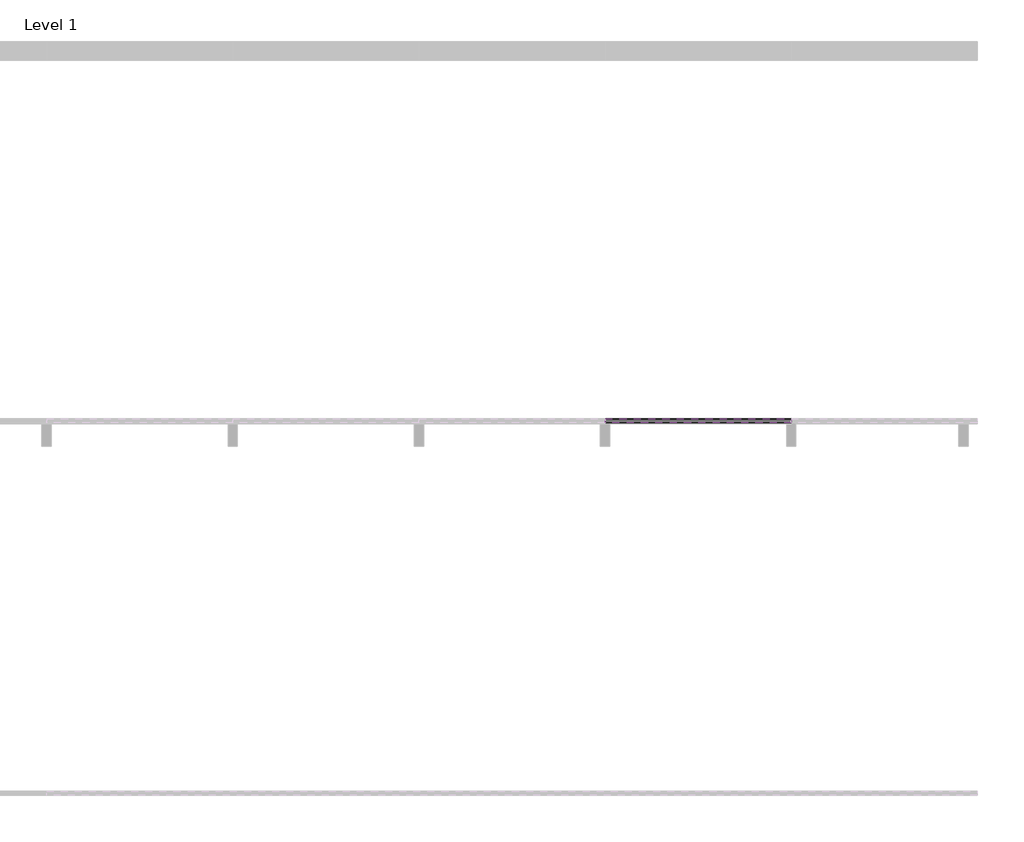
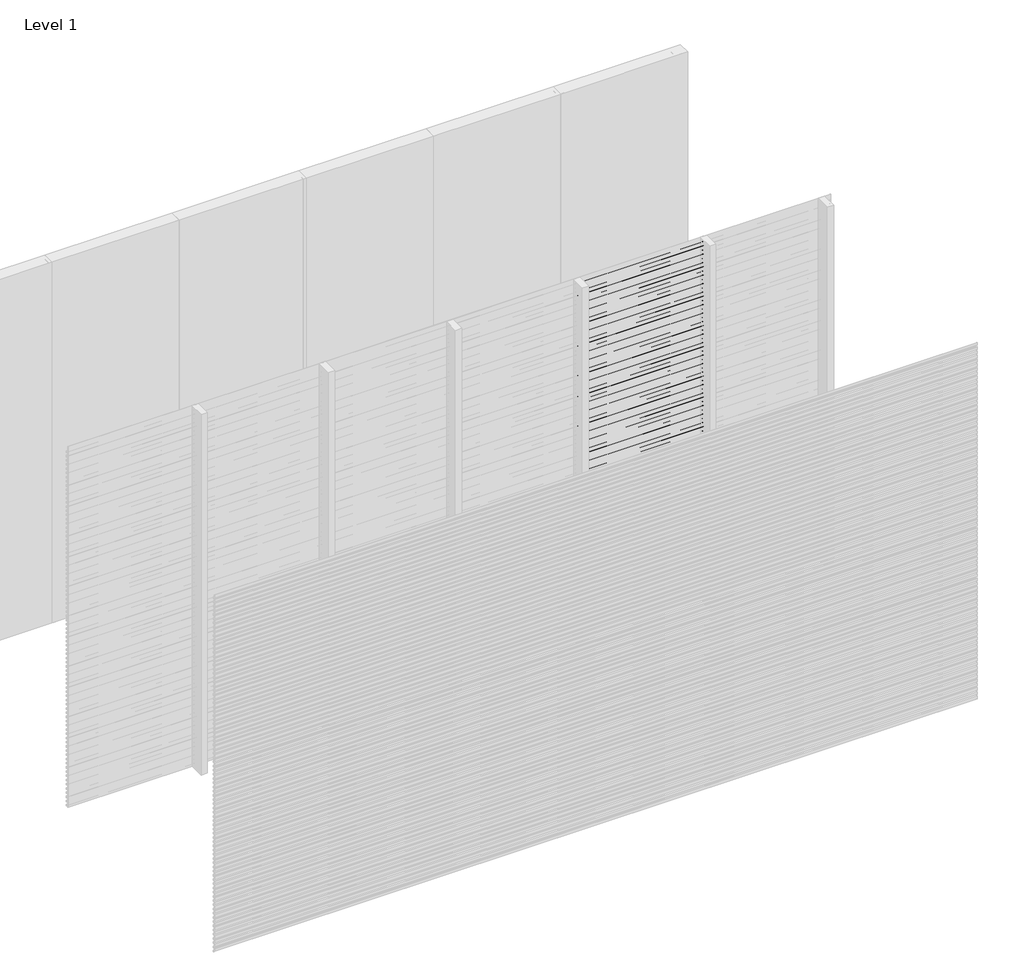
# One storey, part 6 of 25: 97 proxies.
"""IFC4 building model written with IfcOpenShell, lengths in millimetres."""

from ifc_helpers import new_model, si_unit, frame, origin, place, context, project, spatial, polyline, outline, extrude, element, save

model = new_model("IFC4")

# Units and contexts
model_context = context("Model", 3, world=origin())
ifc_project = project(units=[si_unit("LENGTHUNIT", "METRE", prefix="MILLI")], contexts=[model_context])

# Site, building, storey
site = spatial("IfcSite", under=ifc_project)
building = spatial("IfcBuilding", under=site)
storey = spatial("IfcBuildingStorey", under=building, Name="Level 1", Elevation=0.0)

# Proxies
placement = place(None, origin())
element("IfcBuildingElementProxy", 1, Name="Wall Sweeps", at=placement, inside=storey, context=model_context, shape_type="SweptSolid", body=[
    extrude(outline(polyline([(-17995.0, 2975.0), (-17995.0, 2963.942893), (-17976.0, 2948.0), (-17976.0, 2935.0), (-17997.0, 2952.6210923), (-17997.0, 2975.0), (-17995.0, 2975.0)])), frame((3999.9999999, 0.0, 0.0), z_axis=(1.0, 0.0, 0.0), x_axis=(0.0, 1.0, 0.0)), (0.0, 0.0, 1.0), 999.9999999),
])
element("IfcBuildingElementProxy", 2, Name="Wall Sweeps", at=placement, inside=storey, context=model_context, shape_type="SweptSolid", body=[
    extrude(outline(polyline([(-17995.0, 2940.0), (-17995.0, 2928.942893), (-17976.0, 2913.0), (-17976.0, 2900.0), (-17997.0, 2917.6210923), (-17997.0, 2940.0), (-17995.0, 2940.0)])), frame((3999.9999999, 0.0, 0.0), z_axis=(1.0, 0.0, 0.0), x_axis=(0.0, 1.0, 0.0)), (0.0, 0.0, 1.0), 999.9999999),
])
element("IfcBuildingElementProxy", 3, Name="Wall Sweeps", at=placement, inside=storey, context=model_context, shape_type="SweptSolid", body=[
    extrude(outline(polyline([(-17995.0, 2905.0), (-17995.0, 2893.942893), (-17976.0, 2878.0), (-17976.0, 2865.0), (-17997.0, 2882.6210923), (-17997.0, 2905.0), (-17995.0, 2905.0)])), frame((3999.9999999, 0.0, 0.0), z_axis=(1.0, 0.0, 0.0), x_axis=(0.0, 1.0, 0.0)), (0.0, 0.0, 1.0), 999.9999999),
])
element("IfcBuildingElementProxy", 4, Name="Wall Sweeps", at=placement, inside=storey, context=model_context, shape_type="SweptSolid", body=[
    extrude(outline(polyline([(-17995.0, 2870.0), (-17995.0, 2858.942893), (-17976.0, 2843.0), (-17976.0, 2830.0), (-17997.0, 2847.6210923), (-17997.0, 2870.0), (-17995.0, 2870.0)])), frame((3999.9999999, 0.0, 0.0), z_axis=(1.0, 0.0, 0.0), x_axis=(0.0, 1.0, 0.0)), (0.0, 0.0, 1.0), 999.9999999),
])
element("IfcBuildingElementProxy", 5, Name="Wall Sweeps", at=placement, inside=storey, context=model_context, shape_type="SweptSolid", body=[
    extrude(outline(polyline([(-17995.0, 2835.0), (-17995.0, 2823.942893), (-17976.0, 2808.0), (-17976.0, 2795.0), (-17997.0, 2812.6210923), (-17997.0, 2835.0), (-17995.0, 2835.0)])), frame((3999.9999999, 0.0, 0.0), z_axis=(1.0, 0.0, 0.0), x_axis=(0.0, 1.0, 0.0)), (0.0, 0.0, 1.0), 999.9999999),
])
element("IfcBuildingElementProxy", 6, Name="Wall Sweeps", at=placement, inside=storey, context=model_context, shape_type="SweptSolid", body=[
    extrude(outline(polyline([(-17995.0, 2800.0), (-17995.0, 2788.942893), (-17976.0, 2773.0), (-17976.0, 2760.0), (-17997.0, 2777.6210923), (-17997.0, 2800.0), (-17995.0, 2800.0)])), frame((3999.9999999, 0.0, 0.0), z_axis=(1.0, 0.0, 0.0), x_axis=(0.0, 1.0, 0.0)), (0.0, 0.0, 1.0), 999.9999999),
])
element("IfcBuildingElementProxy", 7, Name="Wall Sweeps", at=placement, inside=storey, context=model_context, shape_type="SweptSolid", body=[
    extrude(outline(polyline([(-17995.0, 2765.0), (-17995.0, 2753.942893), (-17976.0, 2738.0), (-17976.0, 2725.0), (-17997.0, 2742.6210923), (-17997.0, 2765.0), (-17995.0, 2765.0)])), frame((3999.9999999, 0.0, 0.0), z_axis=(1.0, 0.0, 0.0), x_axis=(0.0, 1.0, 0.0)), (0.0, 0.0, 1.0), 999.9999999),
])
element("IfcBuildingElementProxy", 8, Name="Wall Sweeps", at=placement, inside=storey, context=model_context, shape_type="SweptSolid", body=[
    extrude(outline(polyline([(-17995.0, 2730.0), (-17995.0, 2718.942893), (-17976.0, 2703.0), (-17976.0, 2690.0), (-17997.0, 2707.6210923), (-17997.0, 2730.0), (-17995.0, 2730.0)])), frame((3999.9999999, 0.0, 0.0), z_axis=(1.0, 0.0, 0.0), x_axis=(0.0, 1.0, 0.0)), (0.0, 0.0, 1.0), 999.9999999),
])
element("IfcBuildingElementProxy", 9, Name="Wall Sweeps", at=placement, inside=storey, context=model_context, shape_type="SweptSolid", body=[
    extrude(outline(polyline([(-17995.0, 2695.0), (-17995.0, 2683.942893), (-17976.0, 2668.0), (-17976.0, 2655.0), (-17997.0, 2672.6210923), (-17997.0, 2695.0), (-17995.0, 2695.0)])), frame((3999.9999999, 0.0, 0.0), z_axis=(1.0, 0.0, 0.0), x_axis=(0.0, 1.0, 0.0)), (0.0, 0.0, 1.0), 999.9999999),
])
element("IfcBuildingElementProxy", 10, Name="Wall Sweeps", at=placement, inside=storey, context=model_context, shape_type="SweptSolid", body=[
    extrude(outline(polyline([(-17995.0, 2660.0), (-17995.0, 2648.942893), (-17976.0, 2633.0), (-17976.0, 2620.0), (-17997.0, 2637.6210923), (-17997.0, 2660.0), (-17995.0, 2660.0)])), frame((3999.9999999, 0.0, 0.0), z_axis=(1.0, 0.0, 0.0), x_axis=(0.0, 1.0, 0.0)), (0.0, 0.0, 1.0), 999.9999999),
])
element("IfcBuildingElementProxy", 11, Name="Wall Sweeps", at=placement, inside=storey, context=model_context, shape_type="SweptSolid", body=[
    extrude(outline(polyline([(-17995.0, 2625.0), (-17995.0, 2613.942893), (-17976.0, 2598.0), (-17976.0, 2585.0), (-17997.0, 2602.6210923), (-17997.0, 2625.0), (-17995.0, 2625.0)])), frame((3999.9999999, 0.0, 0.0), z_axis=(1.0, 0.0, 0.0), x_axis=(0.0, 1.0, 0.0)), (0.0, 0.0, 1.0), 999.9999999),
])
element("IfcBuildingElementProxy", 12, Name="Wall Sweeps", at=placement, inside=storey, context=model_context, shape_type="SweptSolid", body=[
    extrude(outline(polyline([(-17995.0, 2590.0), (-17995.0, 2578.942893), (-17976.0, 2563.0), (-17976.0, 2550.0), (-17997.0, 2567.6210923), (-17997.0, 2590.0), (-17995.0, 2590.0)])), frame((3999.9999999, 0.0, 0.0), z_axis=(1.0, 0.0, 0.0), x_axis=(0.0, 1.0, 0.0)), (0.0, 0.0, 1.0), 999.9999999),
])
element("IfcBuildingElementProxy", 13, Name="Wall Sweeps", at=placement, inside=storey, context=model_context, shape_type="SweptSolid", body=[
    extrude(outline(polyline([(-17995.0, 2555.0), (-17995.0, 2543.942893), (-17976.0, 2528.0), (-17976.0, 2515.0), (-17997.0, 2532.6210923), (-17997.0, 2555.0), (-17995.0, 2555.0)])), frame((3999.9999999, 0.0, 0.0), z_axis=(1.0, 0.0, 0.0), x_axis=(0.0, 1.0, 0.0)), (0.0, 0.0, 1.0), 999.9999999),
])
element("IfcBuildingElementProxy", 14, Name="Wall Sweeps", at=placement, inside=storey, context=model_context, shape_type="SweptSolid", body=[
    extrude(outline(polyline([(-17995.0, 2520.0), (-17995.0, 2508.942893), (-17976.0, 2493.0), (-17976.0, 2480.0), (-17997.0, 2497.6210923), (-17997.0, 2520.0), (-17995.0, 2520.0)])), frame((3999.9999999, 0.0, 0.0), z_axis=(1.0, 0.0, 0.0), x_axis=(0.0, 1.0, 0.0)), (0.0, 0.0, 1.0), 999.9999999),
])
element("IfcBuildingElementProxy", 15, Name="Wall Sweeps", at=placement, inside=storey, context=model_context, shape_type="SweptSolid", body=[
    extrude(outline(polyline([(-17995.0, 2485.0), (-17995.0, 2473.942893), (-17976.0, 2458.0), (-17976.0, 2445.0), (-17997.0, 2462.6210923), (-17997.0, 2485.0), (-17995.0, 2485.0)])), frame((3999.9999999, 0.0, 0.0), z_axis=(1.0, 0.0, 0.0), x_axis=(0.0, 1.0, 0.0)), (0.0, 0.0, 1.0), 999.9999999),
])
element("IfcBuildingElementProxy", 16, Name="Wall Sweeps", at=placement, inside=storey, context=model_context, shape_type="SweptSolid", body=[
    extrude(outline(polyline([(-17995.0, 2450.0), (-17995.0, 2438.942893), (-17976.0, 2423.0), (-17976.0, 2410.0), (-17997.0, 2427.6210923), (-17997.0, 2450.0), (-17995.0, 2450.0)])), frame((3999.9999999, 0.0, 0.0), z_axis=(1.0, 0.0, 0.0), x_axis=(0.0, 1.0, 0.0)), (0.0, 0.0, 1.0), 999.9999999),
])
element("IfcBuildingElementProxy", 17, Name="Wall Sweeps", at=placement, inside=storey, context=model_context, shape_type="SweptSolid", body=[
    extrude(outline(polyline([(-17995.0, 2415.0), (-17995.0, 2403.942893), (-17976.0, 2388.0), (-17976.0, 2375.0), (-17997.0, 2392.6210923), (-17997.0, 2415.0), (-17995.0, 2415.0)])), frame((3999.9999999, 0.0, 0.0), z_axis=(1.0, 0.0, 0.0), x_axis=(0.0, 1.0, 0.0)), (0.0, 0.0, 1.0), 999.9999999),
])
element("IfcBuildingElementProxy", 18, Name="Wall Sweeps", at=placement, inside=storey, context=model_context, shape_type="SweptSolid", body=[
    extrude(outline(polyline([(-17995.0, 2380.0), (-17995.0, 2368.942893), (-17976.0, 2353.0), (-17976.0, 2340.0), (-17997.0, 2357.6210923), (-17997.0, 2380.0), (-17995.0, 2380.0)])), frame((3999.9999999, 0.0, 0.0), z_axis=(1.0, 0.0, 0.0), x_axis=(0.0, 1.0, 0.0)), (0.0, 0.0, 1.0), 999.9999999),
])
element("IfcBuildingElementProxy", 19, Name="Wall Sweeps", at=placement, inside=storey, context=model_context, shape_type="SweptSolid", body=[
    extrude(outline(polyline([(-17995.0, 2345.0), (-17995.0, 2333.942893), (-17976.0, 2318.0), (-17976.0, 2305.0), (-17997.0, 2322.6210923), (-17997.0, 2345.0), (-17995.0, 2345.0)])), frame((3999.9999999, 0.0, 0.0), z_axis=(1.0, 0.0, 0.0), x_axis=(0.0, 1.0, 0.0)), (0.0, 0.0, 1.0), 999.9999999),
])
element("IfcBuildingElementProxy", 20, Name="Wall Sweeps", at=placement, inside=storey, context=model_context, shape_type="SweptSolid", body=[
    extrude(outline(polyline([(-17995.0, 2310.0), (-17995.0, 2298.942893), (-17976.0, 2283.0), (-17976.0, 2270.0), (-17997.0, 2287.6210923), (-17997.0, 2310.0), (-17995.0, 2310.0)])), frame((3999.9999999, 0.0, 0.0), z_axis=(1.0, 0.0, 0.0), x_axis=(0.0, 1.0, 0.0)), (0.0, 0.0, 1.0), 999.9999999),
])
element("IfcBuildingElementProxy", 21, Name="Wall Sweeps", at=placement, inside=storey, context=model_context, shape_type="SweptSolid", body=[
    extrude(outline(polyline([(-17995.0, 2275.0), (-17995.0, 2263.942893), (-17976.0, 2248.0), (-17976.0, 2235.0), (-17997.0, 2252.6210923), (-17997.0, 2275.0), (-17995.0, 2275.0)])), frame((3999.9999999, 0.0, 0.0), z_axis=(1.0, 0.0, 0.0), x_axis=(0.0, 1.0, 0.0)), (0.0, 0.0, 1.0), 999.9999999),
])
element("IfcBuildingElementProxy", 22, Name="Wall Sweeps", at=placement, inside=storey, context=model_context, shape_type="SweptSolid", body=[
    extrude(outline(polyline([(-17995.0, 2240.0), (-17995.0, 2228.942893), (-17976.0, 2213.0), (-17976.0, 2200.0), (-17997.0, 2217.6210923), (-17997.0, 2240.0), (-17995.0, 2240.0)])), frame((3999.9999999, 0.0, 0.0), z_axis=(1.0, 0.0, 0.0), x_axis=(0.0, 1.0, 0.0)), (0.0, 0.0, 1.0), 999.9999999),
])
element("IfcBuildingElementProxy", 23, Name="Wall Sweeps", at=placement, inside=storey, context=model_context, shape_type="SweptSolid", body=[
    extrude(outline(polyline([(-17995.0, 2205.0), (-17995.0, 2193.942893), (-17976.0, 2178.0), (-17976.0, 2165.0), (-17997.0, 2182.6210923), (-17997.0, 2205.0), (-17995.0, 2205.0)])), frame((3999.9999999, 0.0, 0.0), z_axis=(1.0, 0.0, 0.0), x_axis=(0.0, 1.0, 0.0)), (0.0, 0.0, 1.0), 999.9999999),
])
element("IfcBuildingElementProxy", 24, Name="Wall Sweeps", at=placement, inside=storey, context=model_context, shape_type="SweptSolid", body=[
    extrude(outline(polyline([(-17995.0, 2170.0), (-17995.0, 2158.942893), (-17976.0, 2143.0), (-17976.0, 2130.0), (-17997.0, 2147.6210923), (-17997.0, 2170.0), (-17995.0, 2170.0)])), frame((3999.9999999, 0.0, 0.0), z_axis=(1.0, 0.0, 0.0), x_axis=(0.0, 1.0, 0.0)), (0.0, 0.0, 1.0), 999.9999999),
])
element("IfcBuildingElementProxy", 25, Name="Wall Sweeps", at=placement, inside=storey, context=model_context, shape_type="SweptSolid", body=[
    extrude(outline(polyline([(-17995.0, 2135.0), (-17995.0, 2123.942893), (-17976.0, 2108.0), (-17976.0, 2095.0), (-17997.0, 2112.6210923), (-17997.0, 2135.0), (-17995.0, 2135.0)])), frame((3999.9999999, 0.0, 0.0), z_axis=(1.0, 0.0, 0.0), x_axis=(0.0, 1.0, 0.0)), (0.0, 0.0, 1.0), 999.9999999),
])
element("IfcBuildingElementProxy", 26, Name="Wall Sweeps", at=placement, inside=storey, context=model_context, shape_type="SweptSolid", body=[
    extrude(outline(polyline([(-17995.0, 2100.0), (-17995.0, 2088.942893), (-17976.0, 2073.0), (-17976.0, 2060.0), (-17997.0, 2077.6210923), (-17997.0, 2100.0), (-17995.0, 2100.0)])), frame((3999.9999999, 0.0, 0.0), z_axis=(1.0, 0.0, 0.0), x_axis=(0.0, 1.0, 0.0)), (0.0, 0.0, 1.0), 999.9999999),
])
element("IfcBuildingElementProxy", 27, Name="Wall Sweeps", at=placement, inside=storey, context=model_context, shape_type="SweptSolid", body=[
    extrude(outline(polyline([(-17995.0, 2065.0), (-17995.0, 2053.942893), (-17976.0, 2038.0), (-17976.0, 2025.0), (-17997.0, 2042.6210923), (-17997.0, 2065.0), (-17995.0, 2065.0)])), frame((3999.9999999, 0.0, 0.0), z_axis=(1.0, 0.0, 0.0), x_axis=(0.0, 1.0, 0.0)), (0.0, 0.0, 1.0), 999.9999999),
])
element("IfcBuildingElementProxy", 28, Name="Wall Sweeps", at=placement, inside=storey, context=model_context, shape_type="SweptSolid", body=[
    extrude(outline(polyline([(-17995.0, 2030.0), (-17995.0, 2018.942893), (-17976.0, 2003.0), (-17976.0, 1990.0), (-17997.0, 2007.6210923), (-17997.0, 2030.0), (-17995.0, 2030.0)])), frame((3999.9999999, 0.0, 0.0), z_axis=(1.0, 0.0, 0.0), x_axis=(0.0, 1.0, 0.0)), (0.0, 0.0, 1.0), 999.9999999),
])
element("IfcBuildingElementProxy", 29, Name="Wall Sweeps", at=placement, inside=storey, context=model_context, shape_type="SweptSolid", body=[
    extrude(outline(polyline([(-17995.0, 1995.0), (-17995.0, 1983.942893), (-17976.0, 1968.0), (-17976.0, 1955.0), (-17997.0, 1972.6210923), (-17997.0, 1995.0), (-17995.0, 1995.0)])), frame((3999.9999999, 0.0, 0.0), z_axis=(1.0, 0.0, 0.0), x_axis=(0.0, 1.0, 0.0)), (0.0, 0.0, 1.0), 999.9999999),
])
element("IfcBuildingElementProxy", 30, Name="Wall Sweeps", at=placement, inside=storey, context=model_context, shape_type="SweptSolid", body=[
    extrude(outline(polyline([(-17995.0, 1960.0), (-17995.0, 1948.942893), (-17976.0, 1933.0), (-17976.0, 1920.0), (-17997.0, 1937.6210923), (-17997.0, 1960.0), (-17995.0, 1960.0)])), frame((3999.9999999, 0.0, 0.0), z_axis=(1.0, 0.0, 0.0), x_axis=(0.0, 1.0, 0.0)), (0.0, 0.0, 1.0), 999.9999999),
])
element("IfcBuildingElementProxy", 31, Name="Wall Sweeps", at=placement, inside=storey, context=model_context, shape_type="SweptSolid", body=[
    extrude(outline(polyline([(-17995.0, 1925.0), (-17995.0, 1913.942893), (-17976.0, 1898.0), (-17976.0, 1885.0), (-17997.0, 1902.6210923), (-17997.0, 1925.0), (-17995.0, 1925.0)])), frame((3999.9999999, 0.0, 0.0), z_axis=(1.0, 0.0, 0.0), x_axis=(0.0, 1.0, 0.0)), (0.0, 0.0, 1.0), 999.9999999),
])
element("IfcBuildingElementProxy", 32, Name="Wall Sweeps", at=placement, inside=storey, context=model_context, shape_type="SweptSolid", body=[
    extrude(outline(polyline([(-17995.0, 1890.0), (-17995.0, 1878.942893), (-17976.0, 1863.0), (-17976.0, 1850.0), (-17997.0, 1867.6210923), (-17997.0, 1890.0), (-17995.0, 1890.0)])), frame((3999.9999999, 0.0, 0.0), z_axis=(1.0, 0.0, 0.0), x_axis=(0.0, 1.0, 0.0)), (0.0, 0.0, 1.0), 999.9999999),
])
element("IfcBuildingElementProxy", 33, Name="Wall Sweeps", at=placement, inside=storey, context=model_context, shape_type="SweptSolid", body=[
    extrude(outline(polyline([(-17995.0, 1855.0), (-17995.0, 1843.942893), (-17976.0, 1828.0), (-17976.0, 1815.0), (-17997.0, 1832.6210923), (-17997.0, 1855.0), (-17995.0, 1855.0)])), frame((3999.9999999, 0.0, 0.0), z_axis=(1.0, 0.0, 0.0), x_axis=(0.0, 1.0, 0.0)), (0.0, 0.0, 1.0), 999.9999999),
])
element("IfcBuildingElementProxy", 34, Name="Wall Sweeps", at=placement, inside=storey, context=model_context, shape_type="SweptSolid", body=[
    extrude(outline(polyline([(-17995.0, 1820.0), (-17995.0, 1808.942893), (-17976.0, 1793.0), (-17976.0, 1780.0), (-17997.0, 1797.6210923), (-17997.0, 1820.0), (-17995.0, 1820.0)])), frame((3999.9999999, 0.0, 0.0), z_axis=(1.0, 0.0, 0.0), x_axis=(0.0, 1.0, 0.0)), (0.0, 0.0, 1.0), 999.9999999),
])
element("IfcBuildingElementProxy", 35, Name="Wall Sweeps", at=placement, inside=storey, context=model_context, shape_type="SweptSolid", body=[
    extrude(outline(polyline([(-17995.0, 1785.0), (-17995.0, 1773.942893), (-17976.0, 1758.0), (-17976.0, 1745.0), (-17997.0, 1762.6210923), (-17997.0, 1785.0), (-17995.0, 1785.0)])), frame((3999.9999999, 0.0, 0.0), z_axis=(1.0, 0.0, 0.0), x_axis=(0.0, 1.0, 0.0)), (0.0, 0.0, 1.0), 999.9999999),
])
element("IfcBuildingElementProxy", 36, Name="Wall Sweeps", at=placement, inside=storey, context=model_context, shape_type="SweptSolid", body=[
    extrude(outline(polyline([(-17995.0, 1750.0), (-17995.0, 1738.942893), (-17976.0, 1723.0), (-17976.0, 1710.0), (-17997.0, 1727.6210923), (-17997.0, 1750.0), (-17995.0, 1750.0)])), frame((3999.9999999, 0.0, 0.0), z_axis=(1.0, 0.0, 0.0), x_axis=(0.0, 1.0, 0.0)), (0.0, 0.0, 1.0), 999.9999999),
])
element("IfcBuildingElementProxy", 37, Name="Wall Sweeps", at=placement, inside=storey, context=model_context, shape_type="SweptSolid", body=[
    extrude(outline(polyline([(-17995.0, 1715.0), (-17995.0, 1703.942893), (-17976.0, 1688.0), (-17976.0, 1675.0), (-17997.0, 1692.6210923), (-17997.0, 1715.0), (-17995.0, 1715.0)])), frame((3999.9999999, 0.0, 0.0), z_axis=(1.0, 0.0, 0.0), x_axis=(0.0, 1.0, 0.0)), (0.0, 0.0, 1.0), 999.9999999),
])
element("IfcBuildingElementProxy", 38, Name="Wall Sweeps", at=placement, inside=storey, context=model_context, shape_type="SweptSolid", body=[
    extrude(outline(polyline([(-17995.0, 1680.0), (-17995.0, 1668.942893), (-17976.0, 1653.0), (-17976.0, 1640.0), (-17997.0, 1657.6210923), (-17997.0, 1680.0), (-17995.0, 1680.0)])), frame((3999.9999999, 0.0, 0.0), z_axis=(1.0, 0.0, 0.0), x_axis=(0.0, 1.0, 0.0)), (0.0, 0.0, 1.0), 999.9999999),
])
element("IfcBuildingElementProxy", 39, Name="Wall Sweeps", at=placement, inside=storey, context=model_context, shape_type="SweptSolid", body=[
    extrude(outline(polyline([(-17995.0, 1645.0), (-17995.0, 1633.942893), (-17976.0, 1618.0), (-17976.0, 1605.0), (-17997.0, 1622.6210923), (-17997.0, 1645.0), (-17995.0, 1645.0)])), frame((3999.9999999, 0.0, 0.0), z_axis=(1.0, 0.0, 0.0), x_axis=(0.0, 1.0, 0.0)), (0.0, 0.0, 1.0), 999.9999999),
])
element("IfcBuildingElementProxy", 40, Name="Wall Sweeps", at=placement, inside=storey, context=model_context, shape_type="SweptSolid", body=[
    extrude(outline(polyline([(-17995.0, 1610.0), (-17995.0, 1598.942893), (-17976.0, 1583.0), (-17976.0, 1570.0), (-17997.0, 1587.6210923), (-17997.0, 1610.0), (-17995.0, 1610.0)])), frame((3999.9999999, 0.0, 0.0), z_axis=(1.0, 0.0, 0.0), x_axis=(0.0, 1.0, 0.0)), (0.0, 0.0, 1.0), 999.9999999),
])
element("IfcBuildingElementProxy", 41, Name="Wall Sweeps", at=placement, inside=storey, context=model_context, shape_type="SweptSolid", body=[
    extrude(outline(polyline([(-17995.0, 1575.0), (-17995.0, 1563.942893), (-17976.0, 1548.0), (-17976.0, 1535.0), (-17997.0, 1552.6210923), (-17997.0, 1575.0), (-17995.0, 1575.0)])), frame((3999.9999999, 0.0, 0.0), z_axis=(1.0, 0.0, 0.0), x_axis=(0.0, 1.0, 0.0)), (0.0, 0.0, 1.0), 999.9999999),
])
element("IfcBuildingElementProxy", 42, Name="Wall Sweeps", at=placement, inside=storey, context=model_context, shape_type="SweptSolid", body=[
    extrude(outline(polyline([(-17995.0, 1540.0), (-17995.0, 1528.942893), (-17976.0, 1513.0), (-17976.0, 1500.0), (-17997.0, 1517.6210923), (-17997.0, 1540.0), (-17995.0, 1540.0)])), frame((3999.9999999, 0.0, 0.0), z_axis=(1.0, 0.0, 0.0), x_axis=(0.0, 1.0, 0.0)), (0.0, 0.0, 1.0), 999.9999999),
])
element("IfcBuildingElementProxy", 43, Name="Wall Sweeps", at=placement, inside=storey, context=model_context, shape_type="SweptSolid", body=[
    extrude(outline(polyline([(-17995.0, 1505.0), (-17995.0, 1493.942893), (-17976.0, 1478.0), (-17976.0, 1465.0), (-17997.0, 1482.6210923), (-17997.0, 1505.0), (-17995.0, 1505.0)])), frame((3999.9999999, 0.0, 0.0), z_axis=(1.0, 0.0, 0.0), x_axis=(0.0, 1.0, 0.0)), (0.0, 0.0, 1.0), 999.9999999),
])
element("IfcBuildingElementProxy", 44, Name="Wall Sweeps", at=placement, inside=storey, context=model_context, shape_type="SweptSolid", body=[
    extrude(outline(polyline([(-17995.0, 1470.0), (-17995.0, 1458.942893), (-17976.0, 1443.0), (-17976.0, 1430.0), (-17997.0, 1447.6210923), (-17997.0, 1470.0), (-17995.0, 1470.0)])), frame((3999.9999999, 0.0, 0.0), z_axis=(1.0, 0.0, 0.0), x_axis=(0.0, 1.0, 0.0)), (0.0, 0.0, 1.0), 999.9999999),
])
element("IfcBuildingElementProxy", 45, Name="Wall Sweeps", at=placement, inside=storey, context=model_context, shape_type="SweptSolid", body=[
    extrude(outline(polyline([(-17995.0, 1435.0), (-17995.0, 1423.942893), (-17976.0, 1408.0), (-17976.0, 1395.0), (-17997.0, 1412.6210923), (-17997.0, 1435.0), (-17995.0, 1435.0)])), frame((3999.9999999, 0.0, 0.0), z_axis=(1.0, 0.0, 0.0), x_axis=(0.0, 1.0, 0.0)), (0.0, 0.0, 1.0), 999.9999999),
])
element("IfcBuildingElementProxy", 46, Name="Wall Sweeps", at=placement, inside=storey, context=model_context, shape_type="SweptSolid", body=[
    extrude(outline(polyline([(-17995.0, 1400.0), (-17995.0, 1388.942893), (-17976.0, 1373.0), (-17976.0, 1360.0), (-17997.0, 1377.6210923), (-17997.0, 1400.0), (-17995.0, 1400.0)])), frame((3999.9999999, 0.0, 0.0), z_axis=(1.0, 0.0, 0.0), x_axis=(0.0, 1.0, 0.0)), (0.0, 0.0, 1.0), 999.9999999),
])
element("IfcBuildingElementProxy", 47, Name="Wall Sweeps", at=placement, inside=storey, context=model_context, shape_type="SweptSolid", body=[
    extrude(outline(polyline([(-17995.0, 1365.0), (-17995.0, 1353.942893), (-17976.0, 1338.0), (-17976.0, 1325.0), (-17997.0, 1342.6210923), (-17997.0, 1365.0), (-17995.0, 1365.0)])), frame((3999.9999999, 0.0, 0.0), z_axis=(1.0, 0.0, 0.0), x_axis=(0.0, 1.0, 0.0)), (0.0, 0.0, 1.0), 999.9999999),
])
element("IfcBuildingElementProxy", 48, Name="Wall Sweeps", at=placement, inside=storey, context=model_context, shape_type="SweptSolid", body=[
    extrude(outline(polyline([(-17995.0, 1330.0), (-17995.0, 1318.942893), (-17976.0, 1303.0), (-17976.0, 1290.0), (-17997.0, 1307.6210923), (-17997.0, 1330.0), (-17995.0, 1330.0)])), frame((3999.9999999, 0.0, 0.0), z_axis=(1.0, 0.0, 0.0), x_axis=(0.0, 1.0, 0.0)), (0.0, 0.0, 1.0), 999.9999999),
])
element("IfcBuildingElementProxy", 49, Name="Wall Sweeps", at=placement, inside=storey, context=model_context, shape_type="SweptSolid", body=[
    extrude(outline(polyline([(-17995.0, 1295.0), (-17995.0, 1283.942893), (-17976.0, 1268.0), (-17976.0, 1255.0), (-17997.0, 1272.6210923), (-17997.0, 1295.0), (-17995.0, 1295.0)])), frame((3999.9999999, 0.0, 0.0), z_axis=(1.0, 0.0, 0.0), x_axis=(0.0, 1.0, 0.0)), (0.0, 0.0, 1.0), 999.9999999),
])
element("IfcBuildingElementProxy", 50, Name="Wall Sweeps", at=placement, inside=storey, context=model_context, shape_type="SweptSolid", body=[
    extrude(outline(polyline([(-17995.0, 1260.0), (-17995.0, 1248.942893), (-17976.0, 1233.0), (-17976.0, 1220.0), (-17997.0, 1237.6210923), (-17997.0, 1260.0), (-17995.0, 1260.0)])), frame((3999.9999999, 0.0, 0.0), z_axis=(1.0, 0.0, 0.0), x_axis=(0.0, 1.0, 0.0)), (0.0, 0.0, 1.0), 999.9999999),
])
element("IfcBuildingElementProxy", 51, Name="Wall Sweeps", at=placement, inside=storey, context=model_context, shape_type="SweptSolid", body=[
    extrude(outline(polyline([(-17995.0, 1225.0), (-17995.0, 1213.942893), (-17976.0, 1198.0), (-17976.0, 1185.0), (-17997.0, 1202.6210923), (-17997.0, 1225.0), (-17995.0, 1225.0)])), frame((3999.9999999, 0.0, 0.0), z_axis=(1.0, 0.0, 0.0), x_axis=(0.0, 1.0, 0.0)), (0.0, 0.0, 1.0), 999.9999999),
])
element("IfcBuildingElementProxy", 52, Name="Wall Sweeps", at=placement, inside=storey, context=model_context, shape_type="SweptSolid", body=[
    extrude(outline(polyline([(-17995.0, 1190.0), (-17995.0, 1178.942893), (-17976.0, 1163.0), (-17976.0, 1150.0), (-17997.0, 1167.6210923), (-17997.0, 1190.0), (-17995.0, 1190.0)])), frame((3999.9999999, 0.0, 0.0), z_axis=(1.0, 0.0, 0.0), x_axis=(0.0, 1.0, 0.0)), (0.0, 0.0, 1.0), 999.9999999),
])
element("IfcBuildingElementProxy", 53, Name="Wall Sweeps", at=placement, inside=storey, context=model_context, shape_type="SweptSolid", body=[
    extrude(outline(polyline([(-17995.0, 1155.0), (-17995.0, 1143.942893), (-17976.0, 1128.0), (-17976.0, 1115.0), (-17997.0, 1132.6210923), (-17997.0, 1155.0), (-17995.0, 1155.0)])), frame((3999.9999999, 0.0, 0.0), z_axis=(1.0, 0.0, 0.0), x_axis=(0.0, 1.0, 0.0)), (0.0, 0.0, 1.0), 999.9999999),
])
element("IfcBuildingElementProxy", 54, Name="Wall Sweeps", at=placement, inside=storey, context=model_context, shape_type="SweptSolid", body=[
    extrude(outline(polyline([(-17995.0, 1120.0), (-17995.0, 1108.942893), (-17976.0, 1093.0), (-17976.0, 1080.0), (-17997.0, 1097.6210923), (-17997.0, 1120.0), (-17995.0, 1120.0)])), frame((3999.9999999, 0.0, 0.0), z_axis=(1.0, 0.0, 0.0), x_axis=(0.0, 1.0, 0.0)), (0.0, 0.0, 1.0), 999.9999999),
])
element("IfcBuildingElementProxy", 55, Name="Wall Sweeps", at=placement, inside=storey, context=model_context, shape_type="SweptSolid", body=[
    extrude(outline(polyline([(-17995.0, 1085.0), (-17995.0, 1073.942893), (-17976.0, 1058.0), (-17976.0, 1045.0), (-17997.0, 1062.6210923), (-17997.0, 1085.0), (-17995.0, 1085.0)])), frame((3999.9999999, 0.0, 0.0), z_axis=(1.0, 0.0, 0.0), x_axis=(0.0, 1.0, 0.0)), (0.0, 0.0, 1.0), 999.9999999),
])
element("IfcBuildingElementProxy", 56, Name="Wall Sweeps", at=placement, inside=storey, context=model_context, shape_type="SweptSolid", body=[
    extrude(outline(polyline([(-17995.0, 1050.0), (-17995.0, 1038.942893), (-17976.0, 1023.0), (-17976.0, 1010.0), (-17997.0, 1027.6210923), (-17997.0, 1050.0), (-17995.0, 1050.0)])), frame((3999.9999999, 0.0, 0.0), z_axis=(1.0, 0.0, 0.0), x_axis=(0.0, 1.0, 0.0)), (0.0, 0.0, 1.0), 999.9999999),
])
element("IfcBuildingElementProxy", 57, Name="Wall Sweeps", at=placement, inside=storey, context=model_context, shape_type="SweptSolid", body=[
    extrude(outline(polyline([(-17995.0, 1015.0), (-17995.0, 1003.942893), (-17976.0, 988.0), (-17976.0, 975.0), (-17997.0, 992.6210923), (-17997.0, 1015.0), (-17995.0, 1015.0)])), frame((3999.9999999, 0.0, 0.0), z_axis=(1.0, 0.0, 0.0), x_axis=(0.0, 1.0, 0.0)), (0.0, 0.0, 1.0), 999.9999999),
])
element("IfcBuildingElementProxy", 58, Name="Wall Sweeps", at=placement, inside=storey, context=model_context, shape_type="SweptSolid", body=[
    extrude(outline(polyline([(-17995.0, 980.0), (-17995.0, 968.942893), (-17976.0, 953.0), (-17976.0, 940.0), (-17997.0, 957.6210923), (-17997.0, 980.0), (-17995.0, 980.0)])), frame((3999.9999999, 0.0, 0.0), z_axis=(1.0, 0.0, 0.0), x_axis=(0.0, 1.0, 0.0)), (0.0, 0.0, 1.0), 999.9999999),
])
element("IfcBuildingElementProxy", 59, Name="Wall Sweeps", at=placement, inside=storey, context=model_context, shape_type="SweptSolid", body=[
    extrude(outline(polyline([(-17995.0, 945.0), (-17995.0, 933.942893), (-17976.0, 918.0), (-17976.0, 905.0), (-17997.0, 922.6210923), (-17997.0, 945.0), (-17995.0, 945.0)])), frame((3999.9999999, 0.0, 0.0), z_axis=(1.0, 0.0, 0.0), x_axis=(0.0, 1.0, 0.0)), (0.0, 0.0, 1.0), 999.9999999),
])
element("IfcBuildingElementProxy", 60, Name="Wall Sweeps", at=placement, inside=storey, context=model_context, shape_type="SweptSolid", body=[
    extrude(outline(polyline([(-17995.0, 910.0), (-17995.0, 898.942893), (-17976.0, 883.0), (-17976.0, 870.0), (-17997.0, 887.6210923), (-17997.0, 910.0), (-17995.0, 910.0)])), frame((3999.9999999, 0.0, 0.0), z_axis=(1.0, 0.0, 0.0), x_axis=(0.0, 1.0, 0.0)), (0.0, 0.0, 1.0), 999.9999999),
])
element("IfcBuildingElementProxy", 61, Name="Wall Sweeps", at=placement, inside=storey, context=model_context, shape_type="SweptSolid", body=[
    extrude(outline(polyline([(-17995.0, 875.0), (-17995.0, 863.942893), (-17976.0, 848.0), (-17976.0, 835.0), (-17997.0, 852.6210923), (-17997.0, 875.0), (-17995.0, 875.0)])), frame((3999.9999999, 0.0, 0.0), z_axis=(1.0, 0.0, 0.0), x_axis=(0.0, 1.0, 0.0)), (0.0, 0.0, 1.0), 999.9999999),
])
element("IfcBuildingElementProxy", 62, Name="Wall Sweeps", at=placement, inside=storey, context=model_context, shape_type="SweptSolid", body=[
    extrude(outline(polyline([(-17995.0, 840.0), (-17995.0, 828.942893), (-17976.0, 813.0), (-17976.0, 800.0), (-17997.0, 817.6210923), (-17997.0, 840.0), (-17995.0, 840.0)])), frame((3999.9999999, 0.0, 0.0), z_axis=(1.0, 0.0, 0.0), x_axis=(0.0, 1.0, 0.0)), (0.0, 0.0, 1.0), 999.9999999),
])
element("IfcBuildingElementProxy", 63, Name="Wall Sweeps", at=placement, inside=storey, context=model_context, shape_type="SweptSolid", body=[
    extrude(outline(polyline([(-17995.0, 805.0), (-17995.0, 793.942893), (-17976.0, 778.0), (-17976.0, 765.0), (-17997.0, 782.6210923), (-17997.0, 805.0), (-17995.0, 805.0)])), frame((3999.9999999, 0.0, 0.0), z_axis=(1.0, 0.0, 0.0), x_axis=(0.0, 1.0, 0.0)), (0.0, 0.0, 1.0), 999.9999999),
])
element("IfcBuildingElementProxy", 64, Name="Wall Sweeps", at=placement, inside=storey, context=model_context, shape_type="SweptSolid", body=[
    extrude(outline(polyline([(-17995.0, 770.0), (-17995.0, 758.942893), (-17976.0, 743.0), (-17976.0, 730.0), (-17997.0, 747.6210923), (-17997.0, 770.0), (-17995.0, 770.0)])), frame((3999.9999999, 0.0, 0.0), z_axis=(1.0, 0.0, 0.0), x_axis=(0.0, 1.0, 0.0)), (0.0, 0.0, 1.0), 999.9999999),
])
element("IfcBuildingElementProxy", 65, Name="Wall Sweeps", at=placement, inside=storey, context=model_context, shape_type="SweptSolid", body=[
    extrude(outline(polyline([(-17995.0, 735.0), (-17995.0, 723.942893), (-17976.0, 708.0), (-17976.0, 695.0), (-17997.0, 712.6210923), (-17997.0, 735.0), (-17995.0, 735.0)])), frame((3999.9999999, 0.0, 0.0), z_axis=(1.0, 0.0, 0.0), x_axis=(0.0, 1.0, 0.0)), (0.0, 0.0, 1.0), 999.9999999),
])
element("IfcBuildingElementProxy", 66, Name="Wall Sweeps", at=placement, inside=storey, context=model_context, shape_type="SweptSolid", body=[
    extrude(outline(polyline([(-17995.0, 700.0), (-17995.0, 688.942893), (-17976.0, 673.0), (-17976.0, 660.0), (-17997.0, 677.6210923), (-17997.0, 700.0), (-17995.0, 700.0)])), frame((3999.9999999, 0.0, 0.0), z_axis=(1.0, 0.0, 0.0), x_axis=(0.0, 1.0, 0.0)), (0.0, 0.0, 1.0), 999.9999999),
])
element("IfcBuildingElementProxy", 67, Name="Wall Sweeps", at=placement, inside=storey, context=model_context, shape_type="SweptSolid", body=[
    extrude(outline(polyline([(-17995.0, 665.0), (-17995.0, 653.942893), (-17976.0, 638.0), (-17976.0, 625.0), (-17997.0, 642.6210923), (-17997.0, 665.0), (-17995.0, 665.0)])), frame((3999.9999999, 0.0, 0.0), z_axis=(1.0, 0.0, 0.0), x_axis=(0.0, 1.0, 0.0)), (0.0, 0.0, 1.0), 999.9999999),
])
element("IfcBuildingElementProxy", 68, Name="Wall Sweeps", at=placement, inside=storey, context=model_context, shape_type="SweptSolid", body=[
    extrude(outline(polyline([(-17995.0, 630.0), (-17995.0, 618.942893), (-17976.0, 603.0), (-17976.0, 590.0), (-17997.0, 607.6210923), (-17997.0, 630.0), (-17995.0, 630.0)])), frame((3999.9999999, 0.0, 0.0), z_axis=(1.0, 0.0, 0.0), x_axis=(0.0, 1.0, 0.0)), (0.0, 0.0, 1.0), 999.9999999),
])
element("IfcBuildingElementProxy", 69, Name="Wall Sweeps", at=placement, inside=storey, context=model_context, shape_type="SweptSolid", body=[
    extrude(outline(polyline([(-17995.0, 595.0), (-17995.0, 583.942893), (-17976.0, 568.0), (-17976.0, 555.0), (-17997.0, 572.6210923), (-17997.0, 595.0), (-17995.0, 595.0)])), frame((3999.9999999, 0.0, 0.0), z_axis=(1.0, 0.0, 0.0), x_axis=(0.0, 1.0, 0.0)), (0.0, 0.0, 1.0), 999.9999999),
])
element("IfcBuildingElementProxy", 70, Name="Wall Sweeps", at=placement, inside=storey, context=model_context, shape_type="SweptSolid", body=[
    extrude(outline(polyline([(-17995.0, 560.0), (-17995.0, 548.942893), (-17976.0, 533.0), (-17976.0, 520.0), (-17997.0, 537.6210923), (-17997.0, 560.0), (-17995.0, 560.0)])), frame((3999.9999999, 0.0, 0.0), z_axis=(1.0, 0.0, 0.0), x_axis=(0.0, 1.0, 0.0)), (0.0, 0.0, 1.0), 999.9999999),
])
element("IfcBuildingElementProxy", 71, Name="Wall Sweeps", at=placement, inside=storey, context=model_context, shape_type="SweptSolid", body=[
    extrude(outline(polyline([(-17995.0, 525.0), (-17995.0, 513.942893), (-17976.0, 498.0), (-17976.0, 485.0), (-17997.0, 502.6210923), (-17997.0, 525.0), (-17995.0, 525.0)])), frame((3999.9999999, 0.0, 0.0), z_axis=(1.0, 0.0, 0.0), x_axis=(0.0, 1.0, 0.0)), (0.0, 0.0, 1.0), 999.9999999),
])
element("IfcBuildingElementProxy", 72, Name="Wall Sweeps", at=placement, inside=storey, context=model_context, shape_type="SweptSolid", body=[
    extrude(outline(polyline([(-17995.0, 490.0), (-17995.0, 478.942893), (-17976.0, 463.0), (-17976.0, 450.0), (-17997.0, 467.6210923), (-17997.0, 490.0), (-17995.0, 490.0)])), frame((3999.9999999, 0.0, 0.0), z_axis=(1.0, 0.0, 0.0), x_axis=(0.0, 1.0, 0.0)), (0.0, 0.0, 1.0), 999.9999999),
])
element("IfcBuildingElementProxy", 73, Name="Wall Sweeps", at=placement, inside=storey, context=model_context, shape_type="SweptSolid", body=[
    extrude(outline(polyline([(-17995.0, 455.0), (-17995.0, 443.942893), (-17976.0, 428.0), (-17976.0, 415.0), (-17997.0, 432.6210923), (-17997.0, 455.0), (-17995.0, 455.0)])), frame((3999.9999999, 0.0, 0.0), z_axis=(1.0, 0.0, 0.0), x_axis=(0.0, 1.0, 0.0)), (0.0, 0.0, 1.0), 999.9999999),
])
element("IfcBuildingElementProxy", 74, Name="Wall Sweeps", at=placement, inside=storey, context=model_context, shape_type="SweptSolid", body=[
    extrude(outline(polyline([(-17995.0, 420.0), (-17995.0, 408.942893), (-17976.0, 393.0), (-17976.0, 380.0), (-17997.0, 397.6210923), (-17997.0, 420.0), (-17995.0, 420.0)])), frame((3999.9999999, 0.0, 0.0), z_axis=(1.0, 0.0, 0.0), x_axis=(0.0, 1.0, 0.0)), (0.0, 0.0, 1.0), 999.9999999),
])
element("IfcBuildingElementProxy", 75, Name="Wall Sweeps", at=placement, inside=storey, context=model_context, shape_type="SweptSolid", body=[
    extrude(outline(polyline([(-17995.0, 385.0), (-17995.0, 373.942893), (-17976.0, 358.0), (-17976.0, 345.0), (-17997.0, 362.6210923), (-17997.0, 385.0), (-17995.0, 385.0)])), frame((3999.9999999, 0.0, 0.0), z_axis=(1.0, 0.0, 0.0), x_axis=(0.0, 1.0, 0.0)), (0.0, 0.0, 1.0), 999.9999999),
])
element("IfcBuildingElementProxy", 76, Name="Wall Sweeps", at=placement, inside=storey, context=model_context, shape_type="SweptSolid", body=[
    extrude(outline(polyline([(-17995.0, 350.0), (-17995.0, 338.942893), (-17976.0, 323.0), (-17976.0, 310.0), (-17997.0, 327.6210923), (-17997.0, 350.0), (-17995.0, 350.0)])), frame((3999.9999999, 0.0, 0.0), z_axis=(1.0, 0.0, 0.0), x_axis=(0.0, 1.0, 0.0)), (0.0, 0.0, 1.0), 999.9999999),
])
element("IfcBuildingElementProxy", 77, Name="Wall Sweeps", at=placement, inside=storey, context=model_context, shape_type="SweptSolid", body=[
    extrude(outline(polyline([(-17995.0, 315.0), (-17995.0, 303.942893), (-17976.0, 288.0), (-17976.0, 275.0), (-17997.0, 292.6210923), (-17997.0, 315.0), (-17995.0, 315.0)])), frame((3999.9999999, 0.0, 0.0), z_axis=(1.0, 0.0, 0.0), x_axis=(0.0, 1.0, 0.0)), (0.0, 0.0, 1.0), 999.9999999),
])
element("IfcBuildingElementProxy", 78, Name="Wall Sweeps", at=placement, inside=storey, context=model_context, shape_type="SweptSolid", body=[
    extrude(outline(polyline([(-17995.0, 700.0), (-17995.0, 688.942893), (-17976.0, 673.0), (-17976.0, 660.0), (-17997.0, 677.6210923), (-17997.0, 700.0), (-17995.0, 700.0)])), frame((3000.0, 0.0, 0.0), z_axis=(1.0, 0.0, 0.0), x_axis=(0.0, 1.0, 0.0)), (0.0, 0.0, 1.0), 999.9999999),
])
element("IfcBuildingElementProxy", 79, Name="Wall Sweeps", at=placement, inside=storey, context=model_context, shape_type="SweptSolid", body=[
    extrude(outline(polyline([(-17995.0, 665.0), (-17995.0, 653.942893), (-17976.0, 638.0), (-17976.0, 625.0), (-17997.0, 642.6210923), (-17997.0, 665.0), (-17995.0, 665.0)])), frame((3000.0, 0.0, 0.0), z_axis=(1.0, 0.0, 0.0), x_axis=(0.0, 1.0, 0.0)), (0.0, 0.0, 1.0), 999.9999999),
])
element("IfcBuildingElementProxy", 80, Name="Wall Sweeps", at=placement, inside=storey, context=model_context, shape_type="SweptSolid", body=[
    extrude(outline(polyline([(-17995.0, 630.0), (-17995.0, 618.942893), (-17976.0, 603.0), (-17976.0, 590.0), (-17997.0, 607.6210923), (-17997.0, 630.0), (-17995.0, 630.0)])), frame((3000.0, 0.0, 0.0), z_axis=(1.0, 0.0, 0.0), x_axis=(0.0, 1.0, 0.0)), (0.0, 0.0, 1.0), 999.9999999),
])
element("IfcBuildingElementProxy", 81, Name="Wall Sweeps", at=placement, inside=storey, context=model_context, shape_type="SweptSolid", body=[
    extrude(outline(polyline([(-17995.0, 595.0), (-17995.0, 583.942893), (-17976.0, 568.0), (-17976.0, 555.0), (-17997.0, 572.6210923), (-17997.0, 595.0), (-17995.0, 595.0)])), frame((3000.0, 0.0, 0.0), z_axis=(1.0, 0.0, 0.0), x_axis=(0.0, 1.0, 0.0)), (0.0, 0.0, 1.0), 999.9999999),
])
element("IfcBuildingElementProxy", 82, Name="Wall Sweeps", at=placement, inside=storey, context=model_context, shape_type="SweptSolid", body=[
    extrude(outline(polyline([(-17995.0, 560.0), (-17995.0, 548.942893), (-17976.0, 533.0), (-17976.0, 520.0), (-17997.0, 537.6210923), (-17997.0, 560.0), (-17995.0, 560.0)])), frame((3000.0, 0.0, 0.0), z_axis=(1.0, 0.0, 0.0), x_axis=(0.0, 1.0, 0.0)), (0.0, 0.0, 1.0), 999.9999999),
])
element("IfcBuildingElementProxy", 83, Name="Wall Sweeps", at=placement, inside=storey, context=model_context, shape_type="SweptSolid", body=[
    extrude(outline(polyline([(-17995.0, 525.0), (-17995.0, 513.942893), (-17976.0, 498.0), (-17976.0, 485.0), (-17997.0, 502.6210923), (-17997.0, 525.0), (-17995.0, 525.0)])), frame((3000.0, 0.0, 0.0), z_axis=(1.0, 0.0, 0.0), x_axis=(0.0, 1.0, 0.0)), (0.0, 0.0, 1.0), 999.9999999),
])
element("IfcBuildingElementProxy", 84, Name="Wall Sweeps", at=placement, inside=storey, context=model_context, shape_type="SweptSolid", body=[
    extrude(outline(polyline([(-17995.0, 490.0), (-17995.0, 478.942893), (-17976.0, 463.0), (-17976.0, 450.0), (-17997.0, 467.6210923), (-17997.0, 490.0), (-17995.0, 490.0)])), frame((3000.0, 0.0, 0.0), z_axis=(1.0, 0.0, 0.0), x_axis=(0.0, 1.0, 0.0)), (0.0, 0.0, 1.0), 999.9999999),
])
element("IfcBuildingElementProxy", 85, Name="Wall Sweeps", at=placement, inside=storey, context=model_context, shape_type="SweptSolid", body=[
    extrude(outline(polyline([(-17995.0, 455.0), (-17995.0, 443.942893), (-17976.0, 428.0), (-17976.0, 415.0), (-17997.0, 432.6210923), (-17997.0, 455.0), (-17995.0, 455.0)])), frame((3000.0, 0.0, 0.0), z_axis=(1.0, 0.0, 0.0), x_axis=(0.0, 1.0, 0.0)), (0.0, 0.0, 1.0), 999.9999999),
])
element("IfcBuildingElementProxy", 86, Name="Wall Sweeps", at=placement, inside=storey, context=model_context, shape_type="SweptSolid", body=[
    extrude(outline(polyline([(-17995.0, 420.0), (-17995.0, 408.942893), (-17976.0, 393.0), (-17976.0, 380.0), (-17997.0, 397.6210923), (-17997.0, 420.0), (-17995.0, 420.0)])), frame((3000.0, 0.0, 0.0), z_axis=(1.0, 0.0, 0.0), x_axis=(0.0, 1.0, 0.0)), (0.0, 0.0, 1.0), 999.9999999),
])
element("IfcBuildingElementProxy", 87, Name="Wall Sweeps", at=placement, inside=storey, context=model_context, shape_type="SweptSolid", body=[
    extrude(outline(polyline([(-17995.0, 385.0), (-17995.0, 373.942893), (-17976.0, 358.0), (-17976.0, 345.0), (-17997.0, 362.6210923), (-17997.0, 385.0), (-17995.0, 385.0)])), frame((3000.0, 0.0, 0.0), z_axis=(1.0, 0.0, 0.0), x_axis=(0.0, 1.0, 0.0)), (0.0, 0.0, 1.0), 999.9999999),
])
element("IfcBuildingElementProxy", 88, Name="Wall Sweeps", at=placement, inside=storey, context=model_context, shape_type="SweptSolid", body=[
    extrude(outline(polyline([(-17995.0, 350.0), (-17995.0, 338.942893), (-17976.0, 323.0), (-17976.0, 310.0), (-17997.0, 327.6210923), (-17997.0, 350.0), (-17995.0, 350.0)])), frame((3000.0, 0.0, 0.0), z_axis=(1.0, 0.0, 0.0), x_axis=(0.0, 1.0, 0.0)), (0.0, 0.0, 1.0), 999.9999999),
])
element("IfcBuildingElementProxy", 89, Name="Wall Sweeps", at=placement, inside=storey, context=model_context, shape_type="SweptSolid", body=[
    extrude(outline(polyline([(-17995.0, 315.0), (-17995.0, 303.942893), (-17976.0, 288.0), (-17976.0, 275.0), (-17997.0, 292.6210923), (-17997.0, 315.0), (-17995.0, 315.0)])), frame((3000.0, 0.0, 0.0), z_axis=(1.0, 0.0, 0.0), x_axis=(0.0, 1.0, 0.0)), (0.0, 0.0, 1.0), 999.9999999),
])
element("IfcBuildingElementProxy", 90, Name="Wall Sweeps", at=placement, inside=storey, context=model_context, shape_type="SweptSolid", body=[
    extrude(outline(polyline([(-17995.0, 280.0), (-17995.0, 268.942893), (-17976.0, 253.0), (-17976.0, 240.0), (-17997.0, 257.6210923), (-17997.0, 280.0), (-17995.0, 280.0)])), frame((3000.0, 0.0, 0.0), z_axis=(1.0, 0.0, 0.0), x_axis=(0.0, 1.0, 0.0)), (0.0, 0.0, 1.0), 999.9999999),
])
element("IfcBuildingElementProxy", 91, Name="Wall Sweeps", at=placement, inside=storey, context=model_context, shape_type="SweptSolid", body=[
    extrude(outline(polyline([(-17995.0, 245.0), (-17995.0, 233.942893), (-17976.0, 218.0), (-17976.0, 205.0), (-17997.0, 222.6210923), (-17997.0, 245.0), (-17995.0, 245.0)])), frame((3000.0, 0.0, 0.0), z_axis=(1.0, 0.0, 0.0), x_axis=(0.0, 1.0, 0.0)), (0.0, 0.0, 1.0), 999.9999999),
])
element("IfcBuildingElementProxy", 92, Name="Wall Sweeps", at=placement, inside=storey, context=model_context, shape_type="SweptSolid", body=[
    extrude(outline(polyline([(-17995.0, 210.0), (-17995.0, 198.942893), (-17976.0, 183.0), (-17976.0, 170.0), (-17997.0, 187.6210923), (-17997.0, 210.0), (-17995.0, 210.0)])), frame((3000.0, 0.0, 0.0), z_axis=(1.0, 0.0, 0.0), x_axis=(0.0, 1.0, 0.0)), (0.0, 0.0, 1.0), 999.9999999),
])
element("IfcBuildingElementProxy", 93, Name="Wall Sweeps", at=placement, inside=storey, context=model_context, shape_type="SweptSolid", body=[
    extrude(outline(polyline([(-17995.0, 175.0), (-17995.0, 163.942893), (-17976.0, 148.0), (-17976.0, 135.0), (-17997.0, 152.6210923), (-17997.0, 175.0), (-17995.0, 175.0)])), frame((3000.0, 0.0, 0.0), z_axis=(1.0, 0.0, 0.0), x_axis=(0.0, 1.0, 0.0)), (0.0, 0.0, 1.0), 999.9999999),
])
element("IfcBuildingElementProxy", 94, Name="Wall Sweeps", at=placement, inside=storey, context=model_context, shape_type="SweptSolid", body=[
    extrude(outline(polyline([(-17995.0, 140.0), (-17995.0, 128.942893), (-17976.0, 113.0), (-17976.0, 100.0), (-17997.0, 117.6210923), (-17997.0, 140.0), (-17995.0, 140.0)])), frame((3000.0, 0.0, 0.0), z_axis=(1.0, 0.0, 0.0), x_axis=(0.0, 1.0, 0.0)), (0.0, 0.0, 1.0), 999.9999999),
])
element("IfcBuildingElementProxy", 95, Name="Wall Sweeps", at=placement, inside=storey, context=model_context, shape_type="SweptSolid", body=[
    extrude(outline(polyline([(-17995.0, 105.0), (-17995.0, 93.942893), (-17976.0, 78.0), (-17976.0, 65.0), (-17997.0, 82.6210923), (-17997.0, 105.0), (-17995.0, 105.0)])), frame((3000.0, 0.0, 0.0), z_axis=(1.0, 0.0, 0.0), x_axis=(0.0, 1.0, 0.0)), (0.0, 0.0, 1.0), 999.9999999),
])
element("IfcBuildingElementProxy", 96, Name="Wall Sweeps", at=placement, inside=storey, context=model_context, shape_type="SweptSolid", body=[
    extrude(outline(polyline([(-17995.0, 70.0), (-17995.0, 58.942893), (-17976.0, 43.0), (-17976.0, 30.0), (-17997.0, 47.6210923), (-17997.0, 70.0), (-17995.0, 70.0)])), frame((3000.0, 0.0, 0.0), z_axis=(1.0, 0.0, 0.0), x_axis=(0.0, 1.0, 0.0)), (0.0, 0.0, 1.0), 999.9999999),
])
element("IfcBuildingElementProxy", 97, Name="Wall Sweeps", at=placement, inside=storey, context=model_context, shape_type="SweptSolid", body=[
    extrude(outline(polyline([(-17995.0, 35.0), (-17995.0, 23.942893), (-17976.0, 8.0), (-17976.0, -5.0), (-17997.0, 12.6210923), (-17997.0, 35.0), (-17995.0, 35.0)])), frame((3000.0, 0.0, 0.0), z_axis=(1.0, 0.0, 0.0), x_axis=(0.0, 1.0, 0.0)), (0.0, 0.0, 1.0), 999.9999999),
])

save(model, "model.ifc")
